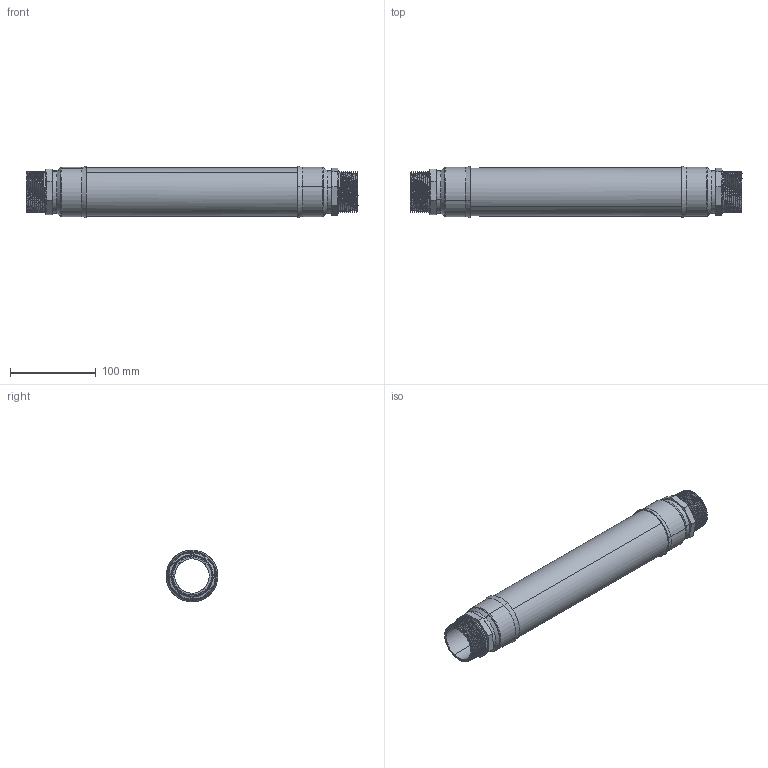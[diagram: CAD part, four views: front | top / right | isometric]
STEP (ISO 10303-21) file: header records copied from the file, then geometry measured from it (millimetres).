
FILE_DESCRIPTION (( 'STEP AP203' ), '1' );
FILE_NAME ('KP_TN40-4S.step', '2011-08-08T11:47:40', ( '' ), ( '' ), 'SwSTEP 2.0', 'SolidWorks 2011', '' );
FILE_SCHEMA (( 'CONFIG_CONTROL_DESIGN' ));
Length unit declared in the file: millimetre
Products named in the file (1): KP_TN40-4S
Bounding box: 386.09 x 60.3 x 60.3 mm (x, y, z)
Volume: 181857.7 mm3; surface area: 136671.6 mm2
Topology: 1 solids, 1 shells, 128 faces, 324 edges, 208 vertices
Faces by surface type: cone 70, plane 30, cylinder 20, bspline 8
Entity records: 18775 total; most frequent: CARTESIAN_POINT 15823, ORIENTED_EDGE 648, DIRECTION 516, EDGE_CURVE 324, VERTEX_POINT 208, AXIS2_PLACEMENT_3D 201, EDGE_LOOP 140, B_SPLINE_CURVE_WITH_KNOTS 130
